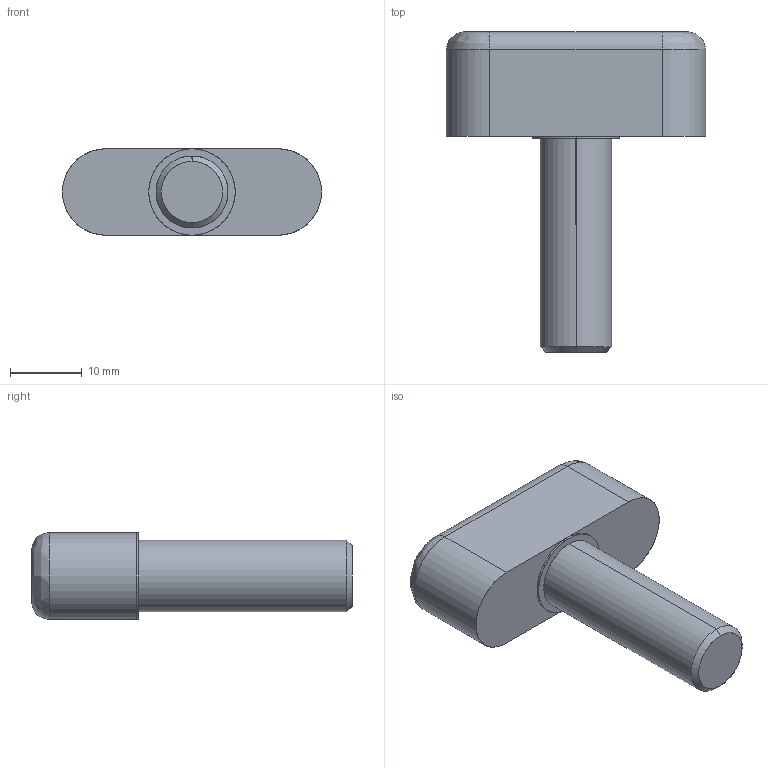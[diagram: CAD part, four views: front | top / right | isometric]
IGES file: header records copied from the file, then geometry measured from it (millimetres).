
Start section: SolidWorks IGES file using analytic representation for surfaces
Global section: file name: C:\Documents and Settings\IanO.IANOHOME\My Documents\Wix and Auto CAD Work\CAD Models\Parametric Models\Wix Models\3738\3738_IGES\3738.W102.igs; native system: SolidWorks 2009; preprocessor: SolidWorks 2009; author: IanO; date: 091209.215843; units: millimetre
Bounding box: 36 x 44.5 x 12 mm (x, y, z)
Surface area: 2883.8 mm2 (no closed solid volume)
Topology: 0 solids, 0 shells, 19 faces, 256 edges, 256 vertices
Faces by surface type: revolution 10, bspline 9
